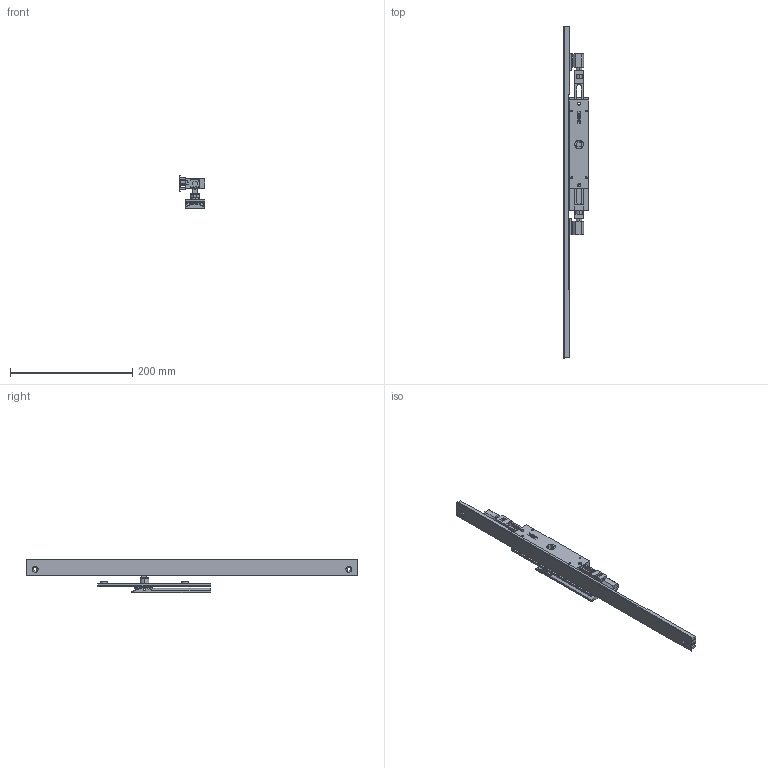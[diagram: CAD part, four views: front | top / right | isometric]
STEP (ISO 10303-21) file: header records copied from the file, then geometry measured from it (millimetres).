
FILE_DESCRIPTION (( 'STEP AP214' ), '1' );
FILE_NAME ('TPL-W-518-L 19July2024.STEP', '2024-12-05T00:09:21', ( '' ), ( '' ), 'SwSTEP 2.0', 'SolidWorks 2023', '' );
FILE_SCHEMA (( 'AUTOMOTIVE_DESIGN' ));
Length unit declared in the file: millimetre
Products named in the file (16): Bolt(2)^TPL-W-018 19July2024; Copy of TPLGen2 lock body non-keyed^Copy of TPLGen2 lock body non-keyed assembly_TPL-W-018 19July2024; Copy of Handle sub-assembly - simplified^Copy of TPGen2 handle non-keyed - simplified_TPL-W-018 19July2024; Copy of Escutcheon plate unkeyed 185mm - simplified^Copy of TPGen2 handle non-keyed - simplified_TPL-W-018 19July2024; Copy of TPLGen2 lock body non-keyed assembly^TPL-W-018 19July2024_Bolts extended; Copy of Copy of Copy of LKC-531 Lock twinpoint transmission rod wood system^TPL-W-018 19July2024_Standard Range 2891.7mm; Copy of COV-112-C Cover C TPLGen2 Lock body^TPL-W-018 19July2024; Copy (2) of COV-112-B Cover B suit TPLGen2 standard range^TPL-W-018 19July2024_2870mm; Copy of TPGen2 handle non-keyed - simplified^TPL-W-018 19July2024_Vertical; Copy of LKC-547 Spindle - simplified^Copy of TPGen2 handle non-keyed - simplified_TPL-W-018 19July2024_G - 24mm; TPL-W-518-L 19July2024; Copy of Adapter DnF - simplfied^TPL-W-018 19July2024_26mm backset; Copy of COV-112-A Cover A suit TPLGen2 standard range^TPL-W-018 19July2024_1335mm; Copy of TPLGen2 push rod - simplified^Copy of TPLGen2 lock body non-keyed assembly_TPL-W-018 19July2024_Female thread M10; Copy of Adapter CnE - simplfied^TPL-W-018 19July2024_26mm backset; Copy of Copy of LKC-531 Lock twinpoint transmission rod wood system^TPL-W-018 19July2024_Standard Range 2891.7mm
Assembly tree (13 placements, depth 3):
  Bolt(2)^TPL-W-018 19July2024
  Copy (2) of COV-112-B Cover B suit TPLGen2 standard range^TPL-W-018 19July2024_2870mm
  TPL-W-518-L 19July2024
    Copy of TPLGen2 lock body non-keyed assembly^TPL-W-018 19July2024_Bolts extended
      Copy of TPLGen2 lock body non-keyed^Copy of TPLGen2 lock body non-keyed assembly_TPL-W-018 19July2024
      Copy of TPLGen2 push rod - simplified^Copy of TPLGen2 lock body non-keyed assembly_TPL-W-018 19July2024_Female thread M10  x2
    Copy of TPGen2 handle non-keyed - simplified^TPL-W-018 19July2024_Vertical
      Copy of Escutcheon plate unkeyed 185mm - simplified^Copy of TPGen2 handle non-keyed - simplified_TPL-W-018 19July2024
      Copy of Handle sub-assembly - simplified^Copy of TPGen2 handle non-keyed - simplified_TPL-W-018 19July2024
      Copy of LKC-547 Spindle - simplified^Copy of TPGen2 handle non-keyed - simplified_TPL-W-018 19July2024_G - 24mm
    Copy of COV-112-C Cover C TPLGen2 Lock body^TPL-W-018 19July2024
    Copy of Copy of LKC-531 Lock twinpoint transmission rod wood system^TPL-W-018 19July2024_Standard Range 2891.7mm
    Copy of Copy of Copy of LKC-531 Lock twinpoint transmission rod wood system^TPL-W-018 19July2024_Standard Range 2891.7mm
    Copy of Adapter DnF - simplfied^TPL-W-018 19July2024_26mm backset
    Copy of Adapter CnE - simplfied^TPL-W-018 19July2024_26mm backset
  Copy of COV-112-A Cover A suit TPLGen2 standard range^TPL-W-018 19July2024_1335mm
Bounding box: 42 x 544 x 54.62 mm (x, y, z)
Volume: 208707.5 mm3; surface area: 118570 mm2
Topology: 12 solids, 12 shells, 637 faces, 1619 edges, 1023 vertices
Faces by surface type: plane 297, cylinder 199, bspline 77, torus 32, cone 20, sphere 12
Entity records: 19175 total; most frequent: CARTESIAN_POINT 4453, ORIENTED_EDGE 3022, DIRECTION 2875, EDGE_CURVE 1511, AXIS2_PLACEMENT_3D 993, VERTEX_POINT 963, LINE 889, VECTOR 889
